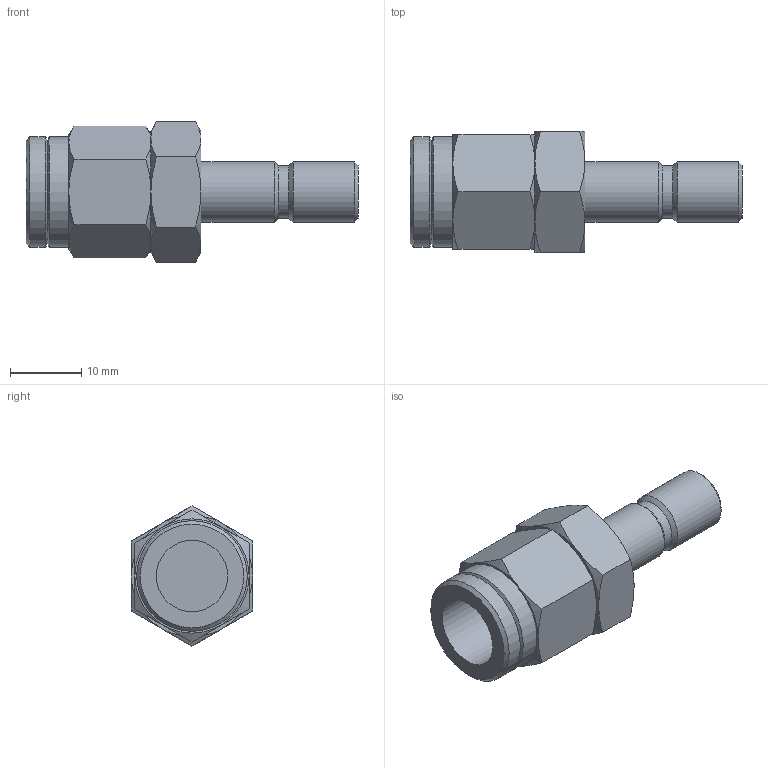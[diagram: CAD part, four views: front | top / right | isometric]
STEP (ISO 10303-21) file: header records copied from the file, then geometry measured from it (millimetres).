
FILE_DESCRIPTION(/* description */ (''),/* implementation_level */ '2;1');
FILE_NAME(/* name */ 'E:\2013年度版　3D-DATA\【20】 HI-COCK ONE-TOUCH COUPLING\[01] NIPPLE\[09] H-LP (6.5×10).stp',/* time_stamp */ '2013-08-05T15:20:50+09:00',/* author */ ('takahashi-pc2'),/* organization */ (''),/* preprocessor_version */ 'ST-DEVELOPER v15.2',/* originating_system */ 'Autodesk Inventor 2014',/* authorisation */ '');
FILE_SCHEMA (('AUTOMOTIVE_DESIGN { 1 0 10303 214 3 1 1 }'));
Length unit declared in the file: millimetre
Products named in the file (1): [09] H-LP (6.5×10)
Bounding box: 46.5 x 17 x 19.63 mm (x, y, z)
Volume: 5896 mm3; surface area: 2714.2 mm2
Topology: 1 solids, 1 shells, 54 faces, 112 edges, 64 vertices
Faces by surface type: cone 30, plane 18, cylinder 6
Full cylindrical faces by diameter (mm): 7.3 x1, 8.45 x2, 10 x1, 15.5 x2
Entity records: 1303 total; most frequent: CARTESIAN_POINT 313, DIRECTION 200, ORIENTED_EDGE 198, EDGE_CURVE 99, AXIS2_PLACEMENT_3D 94, EDGE_LOOP 70, VERTEX_POINT 63, ADVANCED_FACE 54
